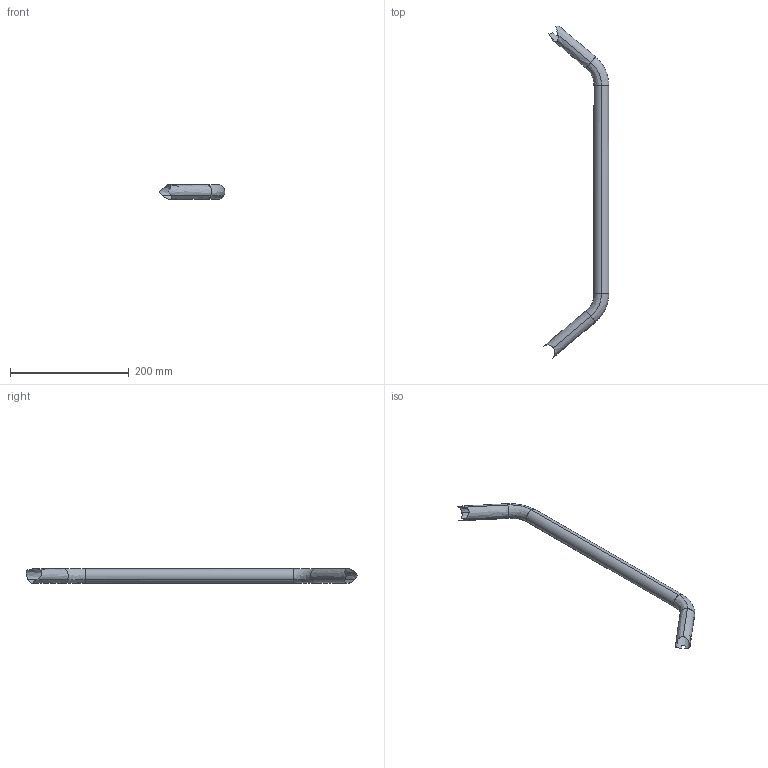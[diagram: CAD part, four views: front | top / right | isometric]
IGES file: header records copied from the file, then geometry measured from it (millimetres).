
Start section: START RECORD GO HERE.
Global section: file name: C:\Documents and Settings\q\Desktop\Part2.igs; native system: IBM CATIA IGES - CATIA Version 5 Release 9 ; preprocessor: CATIA Version 5 Release 9 ; organization: DASSAULT SYSTEMES; date: 20060125.095122; units: millimetre
Bounding box: 110.67 x 559.63 x 25 mm (x, y, z)
Surface area: 47151.3 mm2 (no closed solid volume)
Topology: 0 solids, 0 shells, 15 faces, 89 edges, 89 vertices
Faces by surface type: bspline 15
